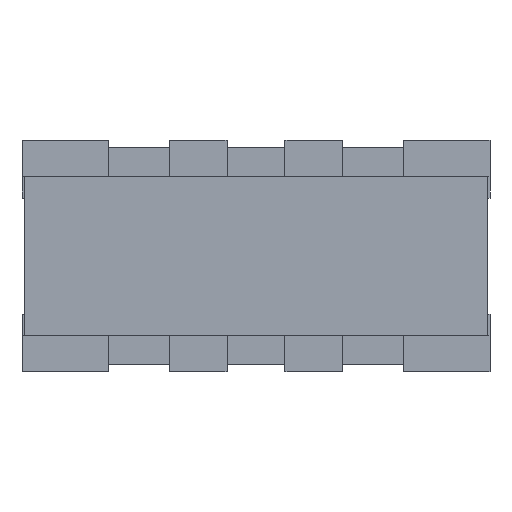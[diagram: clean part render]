
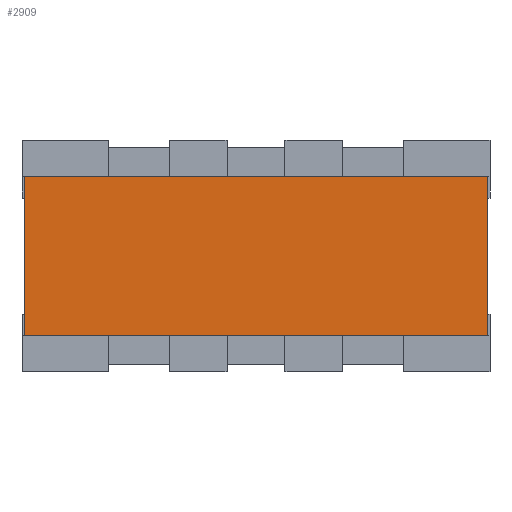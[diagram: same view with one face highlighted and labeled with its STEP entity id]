
A CAD part, top view. The second image highlights one B-rep face of the part: STEP entity #2909.
In plain terms, the highlighted planar face has unit normal (0, 0, 1).
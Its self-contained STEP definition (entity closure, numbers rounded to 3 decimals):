
#2784 = CARTESIAN_POINT ( 'NONE',  ( 1.6, 0.55, 0.55 ) ) ;
#2785 = VERTEX_POINT ( 'NONE', #2784 ) ;
#2792 = CARTESIAN_POINT ( 'NONE',  ( 1.6, -0.55, 0.55 ) ) ;
#2793 = VERTEX_POINT ( 'NONE', #2792 ) ;
#2794 = CARTESIAN_POINT ( 'NONE',  ( 1.6, -0.55, 0.55 ) ) ;
#2795 = DIRECTION ( 'NONE',  ( 0., 1., 0. ) ) ;
#2796 = VECTOR ( 'NONE', #2795, 1000. ) ;
#2797 = LINE ( 'NONE', #2794, #2796 ) ;
#2798 = EDGE_CURVE ( 'NONE', #2793, #2785, #2797, .T. ) ;
#2822 = CARTESIAN_POINT ( 'NONE',  ( -1.6, 0.55, 0.55 ) ) ;
#2823 = VERTEX_POINT ( 'NONE', #2822 ) ;
#2830 = CARTESIAN_POINT ( 'NONE',  ( -1.6, 0.55, 0.55 ) ) ;
#2831 = DIRECTION ( 'NONE',  ( -1., 0., 0. ) ) ;
#2832 = VECTOR ( 'NONE', #2831, 1000. ) ;
#2833 = LINE ( 'NONE', #2830, #2832 ) ;
#2834 = EDGE_CURVE ( 'NONE', #2785, #2823, #2833, .T. ) ;
#2853 = CARTESIAN_POINT ( 'NONE',  ( -1.6, -0.55, 0.55 ) ) ;
#2854 = VERTEX_POINT ( 'NONE', #2853 ) ;
#2861 = CARTESIAN_POINT ( 'NONE',  ( -1.6, -0.55, 0.55 ) ) ;
#2862 = DIRECTION ( 'NONE',  ( 0., -1., 0. ) ) ;
#2863 = VECTOR ( 'NONE', #2862, 1000. ) ;
#2864 = LINE ( 'NONE', #2861, #2863 ) ;
#2865 = EDGE_CURVE ( 'NONE', #2823, #2854, #2864, .T. ) ;
#2883 = CARTESIAN_POINT ( 'NONE',  ( -1.6, -0.55, 0.55 ) ) ;
#2884 = DIRECTION ( 'NONE',  ( 1., 0., 0. ) ) ;
#2885 = VECTOR ( 'NONE', #2884, 1000. ) ;
#2886 = LINE ( 'NONE', #2883, #2885 ) ;
#2887 = EDGE_CURVE ( 'NONE', #2854, #2793, #2886, .T. ) ;
#2898 = ORIENTED_EDGE ( 'NONE', *, *, #2798, .T. ) ;
#2899 = ORIENTED_EDGE ( 'NONE', *, *, #2834, .T. ) ;
#2900 = ORIENTED_EDGE ( 'NONE', *, *, #2865, .T. ) ;
#2901 = ORIENTED_EDGE ( 'NONE', *, *, #2887, .T. ) ;
#2902 = EDGE_LOOP ( 'NONE', ( #2898, #2899, #2900, #2901 ) ) ;
#2903 = FACE_OUTER_BOUND ( 'NONE', #2902, .T. ) ;
#2904 = CARTESIAN_POINT ( 'NONE',  ( 0., 0., 0.55 ) ) ;
#2905 = DIRECTION ( 'NONE',  ( 0., 0., -1. ) ) ;
#2906 = DIRECTION ( 'NONE',  ( 0., 1., 0. ) ) ;
#2907 = AXIS2_PLACEMENT_3D ( 'NONE', #2904, #2905, #2906 ) ;
#2908 = PLANE ( 'NONE', #2907 ) ;
#2909 = ADVANCED_FACE ( 'NONE', ( #2903 ), #2908, .F. ) ;
